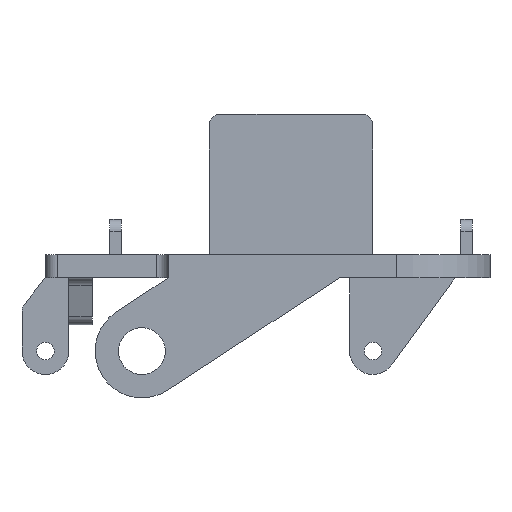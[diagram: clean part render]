
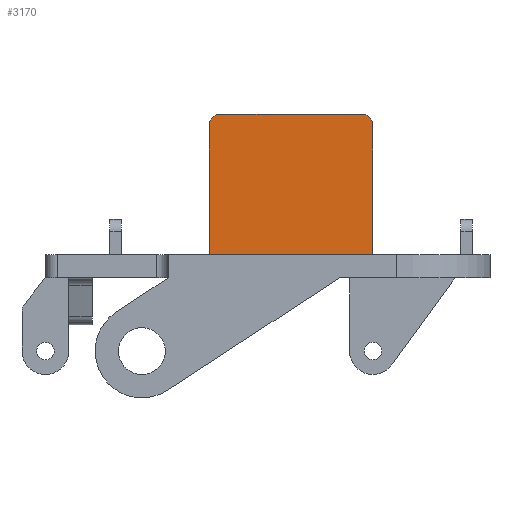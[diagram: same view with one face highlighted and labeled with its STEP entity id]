
A CAD part, left-side view. The second image highlights one B-rep face of the part: STEP entity #3170.
In plain terms, the highlighted planar face has unit normal (-1, 0, 0).
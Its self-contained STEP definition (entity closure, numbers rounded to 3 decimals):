
#10 = CARTESIAN_POINT ( 'NONE',  ( -17., 0., 2. ) ) ;
#19 = VERTEX_POINT ( 'NONE', #986 ) ;
#34 = VECTOR ( 'NONE', #1553, 1000. ) ;
#70 = DIRECTION ( 'NONE',  ( 0., 0., -1. ) ) ;
#84 = DIRECTION ( 'NONE',  ( 0., 1., 0. ) ) ;
#114 = ORIENTED_EDGE ( 'NONE', *, *, #281, .T. ) ;
#169 = CARTESIAN_POINT ( 'NONE',  ( -17., 4., 14. ) ) ;
#281 = EDGE_CURVE ( 'NONE', #2241, #3211, #2477, .T. ) ;
#305 = CARTESIAN_POINT ( 'NONE',  ( -17., -9., 14. ) ) ;
#336 = VERTEX_POINT ( 'NONE', #169 ) ;
#529 = EDGE_CURVE ( 'NONE', #1078, #19, #2320, .T. ) ;
#602 = DIRECTION ( 'NONE',  ( 0., -1., 0. ) ) ;
#626 = CARTESIAN_POINT ( 'NONE',  ( -17., 0., 14. ) ) ;
#642 = DIRECTION ( 'NONE',  ( 0., 1., 0. ) ) ;
#649 = CARTESIAN_POINT ( 'NONE',  ( -17., 4., 13. ) ) ;
#804 = DIRECTION ( 'NONE',  ( 1., 0., 0. ) ) ;
#863 = VECTOR ( 'NONE', #1047, 1000. ) ;
#986 = CARTESIAN_POINT ( 'NONE',  ( -17., -8., 14. ) ) ;
#1047 = DIRECTION ( 'NONE',  ( 0., -1., 0. ) ) ;
#1078 = VERTEX_POINT ( 'NONE', #2197 ) ;
#1158 = CARTESIAN_POINT ( 'NONE',  ( -17., 5., 2. ) ) ;
#1177 = ORIENTED_EDGE ( 'NONE', *, *, #1694, .F. ) ;
#1308 = CARTESIAN_POINT ( 'NONE',  ( -17., 5., 14. ) ) ;
#1398 = EDGE_LOOP ( 'NONE', ( #1177, #3127, #114, #2731, #1766, #2166 ) ) ;
#1467 = CIRCLE ( 'NONE', #3252, 1. ) ;
#1490 = CARTESIAN_POINT ( 'NONE',  ( -17., 5., 13. ) ) ;
#1511 = EDGE_CURVE ( 'NONE', #1078, #1654, #2814, .T. ) ;
#1553 = DIRECTION ( 'NONE',  ( 0., 0., -1. ) ) ;
#1654 = VERTEX_POINT ( 'NONE', #2661 ) ;
#1694 = EDGE_CURVE ( 'NONE', #336, #19, #1845, .T. ) ;
#1766 = ORIENTED_EDGE ( 'NONE', *, *, #1511, .F. ) ;
#1841 = DIRECTION ( 'NONE',  ( -1., 0., 0. ) ) ;
#1845 = LINE ( 'NONE', #2863, #2553 ) ;
#1868 = FACE_OUTER_BOUND ( 'NONE', #1398, .T. ) ;
#1932 = CARTESIAN_POINT ( 'NONE',  ( -17., -8., 13. ) ) ;
#1947 = DIRECTION ( 'NONE',  ( 0., 1., 0. ) ) ;
#2029 = EDGE_CURVE ( 'NONE', #336, #2241, #1467, .T. ) ;
#2166 = ORIENTED_EDGE ( 'NONE', *, *, #529, .T. ) ;
#2197 = CARTESIAN_POINT ( 'NONE',  ( -17., -9., 13. ) ) ;
#2241 = VERTEX_POINT ( 'NONE', #1490 ) ;
#2268 = LINE ( 'NONE', #10, #863 ) ;
#2320 = CIRCLE ( 'NONE', #2760, 1. ) ;
#2477 = LINE ( 'NONE', #1308, #2896 ) ;
#2553 = VECTOR ( 'NONE', #602, 1000. ) ;
#2661 = CARTESIAN_POINT ( 'NONE',  ( -17., -9., 2. ) ) ;
#2731 = ORIENTED_EDGE ( 'NONE', *, *, #2996, .T. ) ;
#2760 = AXIS2_PLACEMENT_3D ( 'NONE', #1932, #2901, #642 ) ;
#2814 = LINE ( 'NONE', #305, #34 ) ;
#2863 = CARTESIAN_POINT ( 'NONE',  ( -17., 0., 14. ) ) ;
#2885 = PLANE ( 'NONE',  #3030 ) ;
#2896 = VECTOR ( 'NONE', #70, 1000. ) ;
#2901 = DIRECTION ( 'NONE',  ( -1., 0., 0. ) ) ;
#2996 = EDGE_CURVE ( 'NONE', #3211, #1654, #2268, .T. ) ;
#3030 = AXIS2_PLACEMENT_3D ( 'NONE', #626, #804, #1947 ) ;
#3127 = ORIENTED_EDGE ( 'NONE', *, *, #2029, .T. ) ;
#3170 = ADVANCED_FACE ( 'NONE', ( #1868 ), #2885, .F. ) ;
#3211 = VERTEX_POINT ( 'NONE', #1158 ) ;
#3252 = AXIS2_PLACEMENT_3D ( 'NONE', #649, #1841, #84 ) ;
